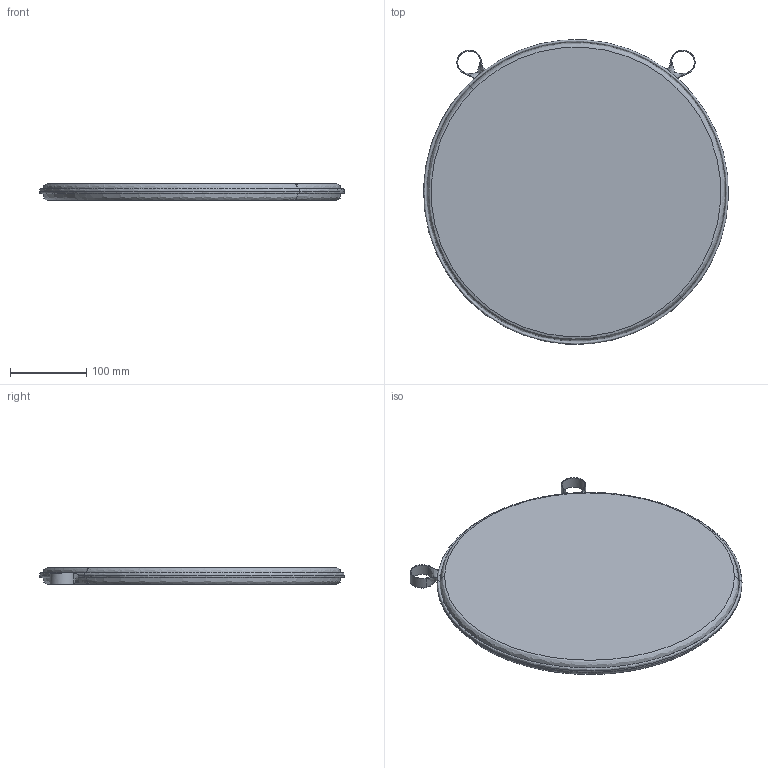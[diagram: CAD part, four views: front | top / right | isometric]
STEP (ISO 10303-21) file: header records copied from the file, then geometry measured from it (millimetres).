
FILE_DESCRIPTION(/* description */ (''),/* implementation_level */ '2;1');
FILE_NAME(/* name */ 'FRAMA_Tasca-Cushion Chair-3D',/* time_stamp */ '2025-11-11T13:56:04+01:00',/* author */ (''),/* organization */ (''),/* preprocessor_version */ 'ST-DEVELOPER v16.5',/* originating_system */ 'Rhino 7.38',/* authorisation */ '');
FILE_SCHEMA (('CONFIG_CONTROL_DESIGN'));
Length unit declared in the file: millimetre
Products named in the file (1): Document
Bounding box: 399.76 x 399.26 x 22.29 mm (x, y, z)
Surface area: 1268414.1 mm2
Topology: 6 solids, 8 shells, 87 faces, 198 edges, 118 vertices
Faces by surface type: bspline 60, plane 19, cylinder 8
Entity records: 5973 total; most frequent: CARTESIAN_POINT 4678, ORIENTED_EDGE 354, EDGE_CURVE 196, B_SPLINE_CURVE_WITH_KNOTS 132, VERTEX_POINT 118, EDGE_LOOP 88, ADVANCED_FACE 87, FACE_OUTER_BOUND 87
